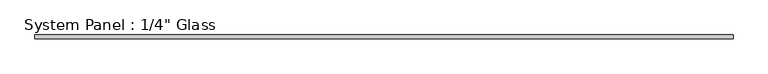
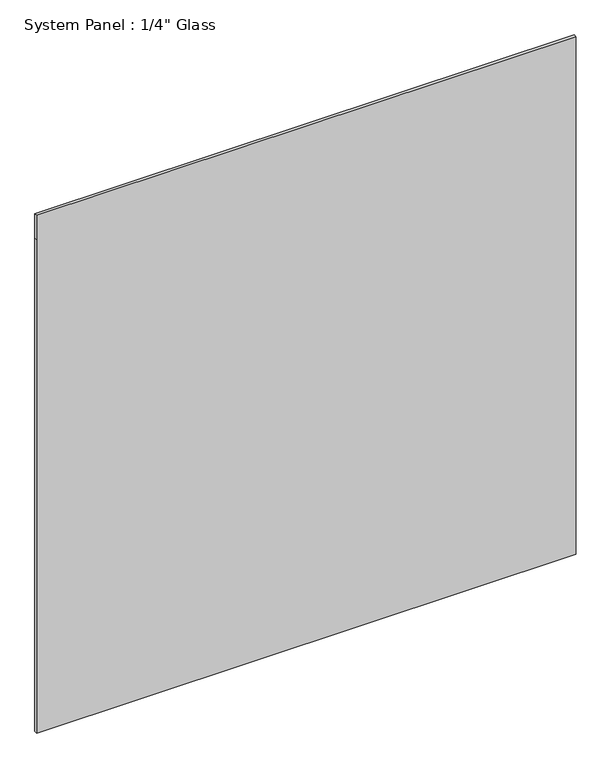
"""IFC4 building model written with IfcOpenShell, lengths in millimetres: plate geometry."""

from ifc_helpers import new_model, si_unit, frame, origin, place, context, project, spatial, polyline, outline, extrude, source, transform, mapped, element, save


def plate_9dcbc979(model_context):
    return source(origin(), model_context, "Body", "SweptSolid", [
        extrude(outline(polyline([(0.0, -612.4979315), (0.0, 612.4979315), (1184.275, 612.4979315), (1242.5844027, 612.4979315), (1242.5844027, -612.4979315), (1184.275, -612.4979315), (0.0, -612.4979315)])), frame((0.0, -3.175, 0.0), z_axis=(0.0, 1.0, 0.0), x_axis=(0.0, 0.0, 1.0)), (0.0, 0.0, 1.0), 6.35),
    ])


if __name__ == "__main__":
    model = new_model("IFC4")
    model_context = context("Model", 3, world=origin())
    ifc_project = project(units=[si_unit("LENGTHUNIT", "METRE", prefix="MILLI")], contexts=[model_context])
    site = spatial("IfcSite", under=ifc_project)
    building = spatial("IfcBuilding", under=site)
    placement = place(None, origin())
    plate_shape = plate_9dcbc979(model_context)
    element("IfcPlate", 1, ObjectType="System Panel : 1/4\" Glass", at=placement, inside=building, context=model_context, shape_type="MappedRepresentation", body=[
        mapped(plate_shape, transform((0.0, 0.0, 0.0), x_axis=(1.0, 0.0, 0.0), y_axis=(0.0, 1.0, 0.0), z_axis=(0.0, 0.0, 1.0))),
    ])
    save(model, "model.ifc")
